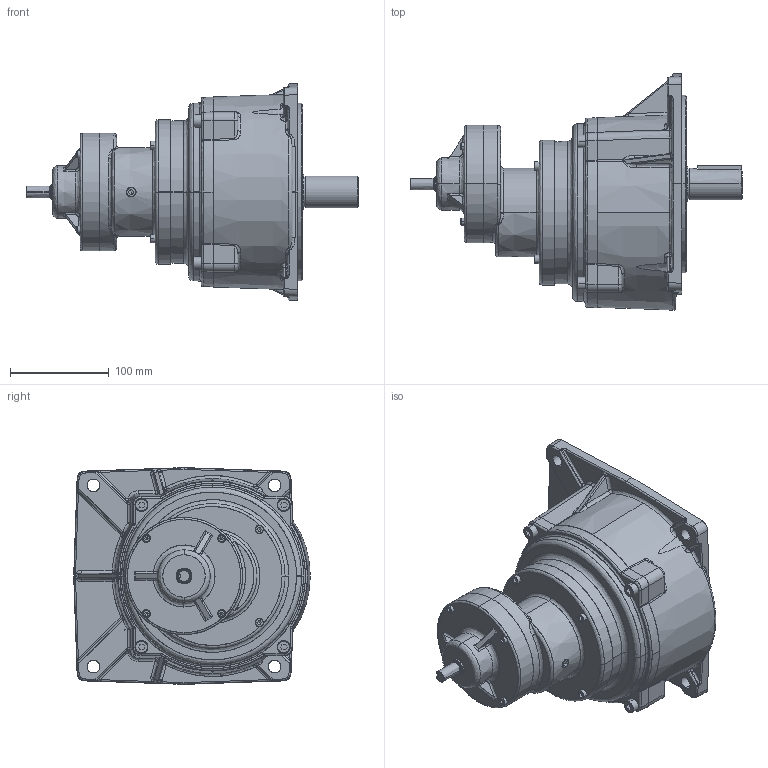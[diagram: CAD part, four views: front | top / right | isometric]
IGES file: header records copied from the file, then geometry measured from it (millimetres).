
Start section: SolidWorks IGES file using analytic representation for surfaces
Bounding box: 337 x 240.19 x 220 mm (x, y, z)
Surface area: 418445.9 mm2 (no closed solid volume)
Topology: 0 solids, 0 shells, 954 faces, 12642 edges, 12616 vertices
Faces by surface type: bspline 570, revolution 384
